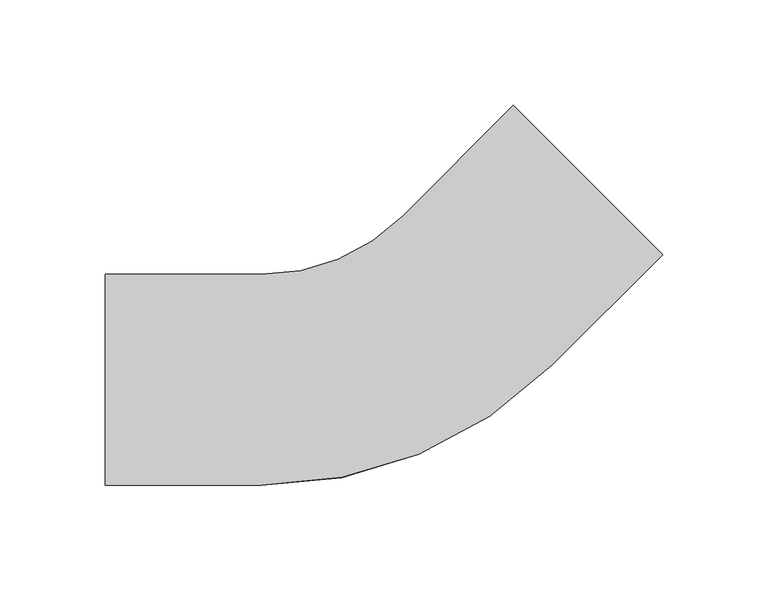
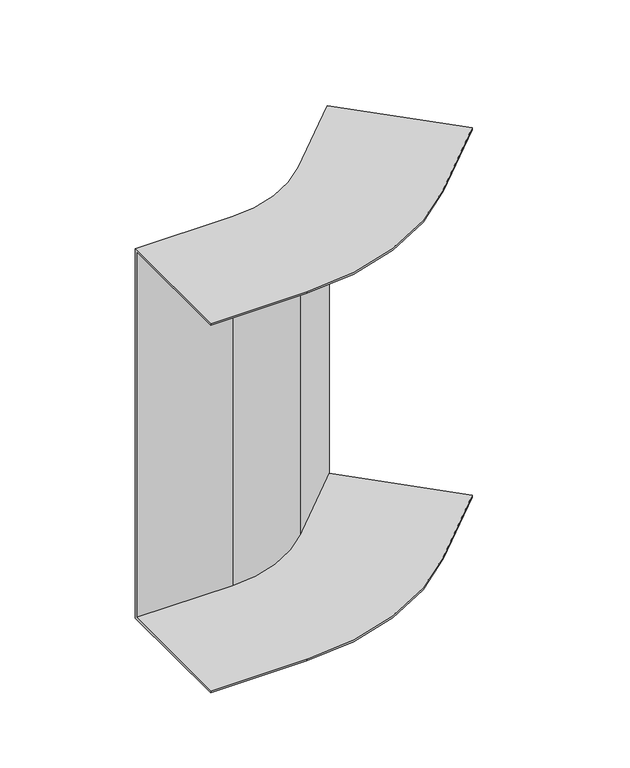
"""IFC4 building model written with IfcOpenShell, lengths in millimetres: cable carrier fitting geometry, BAKS_KK_Vertical bend INTERNAL_LU : LUMNP_H100."""

from ifc_helpers import new_model, si_unit, frame, origin, place, context, project, spatial, polyline, circle_curve, source, transform, mapped, element, save
from ifc_brep_helpers import plane_surface, cylinder_surface, revolved_surface, advanced_brep


def cable_carrier_fitting_ffd069c1(model_context):
    return source(origin(), model_context, "Body", "AdvancedBrep", [
        advanced_brep(
        [(-134.0609665, -50.0, 150.0), (-134.0609665, 50.0, 150.0), (-134.0609665, 50.0, -150.0), (-134.0609665, -50.0, -150.0), (-134.0609665, -50.0, -148.5), (-134.0609665, 48.5, -148.5), (-134.0609665, 48.5, 148.5), (-134.0609665, -50.0, 148.5), (130.1507576, 59.4400795, 150.0), (130.1507576, 59.4400795, 148.5), (60.5007396, 129.0900974, 148.5), (60.5007396, 129.0900974, -148.5), (130.1507576, 59.4400795, -148.5), (130.1507576, 59.4400795, -150.0), (59.4400795, 130.1507576, -150.0), (59.4400795, 130.1507576, 150.0), (-60.0609665, -50.0, 150.0), (77.8248558, 7.1141777, 150.0), (7.1141777, 77.8248558, 150.0), (-60.0609665, 50.0, 150.0), (-60.0609665, 50.0, -150.0), (7.1141777, 77.8248558, -150.0), (77.8248558, 7.1141777, -150.0), (-60.0609665, -50.0, -150.0), (-60.0609665, -50.0, -148.5), (77.8248558, 7.1141777, -148.5), (8.1748378, 76.7641956, -148.5), (-60.0609665, 48.5, -148.5), (-60.0609665, 48.5, 148.5), (8.1748378, 76.7641956, 148.5), (77.8248558, 7.1141777, 148.5), (-60.0609665, -50.0, 148.5)],
        [
            (0, 1),
            (1, 2),
            (2, 3),
            (3, 4),
            (4, 5),
            (5, 6),
            (6, 7),
            (7, 0),
            (8, 9),
            (9, 10),
            (10, 11),
            (11, 12),
            (12, 13),
            (13, 14),
            (14, 15),
            (15, 8),
            (0, 16),
            (16, 17, circle_curve(frame((-60.0609665, 145.0, 150.0), z_axis=(0.0, 0.0, 1.0), x_axis=(0.0, -1.0, 0.0)), 195.0)),
            (17, 8),
            (15, 18),
            (18, 19, circle_curve(frame((-60.0609665, 145.0, 150.0), z_axis=(0.0, 0.0, -1.0), x_axis=(0.0, -1.0, 0.0)), 95.0)),
            (19, 1),
            (19, 20),
            (20, 2),
            (20, 21, circle_curve(frame((-60.0609665, 145.0, -150.0), z_axis=(0.0, 0.0, 1.0), x_axis=(0.0, -1.0, 0.0)), 95.0)),
            (21, 14),
            (13, 22),
            (22, 23, circle_curve(frame((-60.0609665, 145.0, -150.0), z_axis=(0.0, 0.0, -1.0), x_axis=(0.0, -1.0, 0.0)), 195.0)),
            (23, 3),
            (23, 24),
            (24, 4),
            (24, 25, circle_curve(frame((-60.0609665, 145.0, -148.5), z_axis=(0.0, 0.0, 1.0), x_axis=(0.0, -1.0, 0.0)), 195.0)),
            (25, 12),
            (11, 26),
            (26, 27, circle_curve(frame((-60.0609665, 145.0, -148.5), z_axis=(0.0, 0.0, -1.0), x_axis=(0.0, -1.0, 0.0)), 96.5)),
            (27, 5),
            (27, 28),
            (28, 6),
            (28, 29, circle_curve(frame((-60.0609665, 145.0, 148.5), z_axis=(0.0, 0.0, 1.0), x_axis=(0.0, -1.0, 0.0)), 96.5)),
            (29, 10),
            (9, 30),
            (30, 31, circle_curve(frame((-60.0609665, 145.0, 148.5), z_axis=(0.0, 0.0, -1.0), x_axis=(0.0, -1.0, 0.0)), 195.0)),
            (31, 7),
            (31, 16),
            (18, 21),
            (22, 25),
            (26, 29),
            (30, 17),
        ],
        [
            plane_surface(frame((-134.0609665, 0.0, 0.0), z_axis=(-1.0, 0.0, 0.0), x_axis=(0.0, 0.0, 1.0))),
            plane_surface(frame((94.7954185, 94.7954185, 0.0), z_axis=(0.7071067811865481, 0.7071067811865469, 0.0), x_axis=(0.0, 0.0, 1.0))),
            plane_surface(frame((-134.0609665, -50.0, 150.0), z_axis=(0.0, 0.0, 1.0), x_axis=(1.0, 0.0, 0.0))),
            plane_surface(frame((-134.0609665, 50.0, 150.0), z_axis=(0.0, 1.0, 0.0), x_axis=(1.0, 0.0, 0.0))),
            plane_surface(frame((-134.0609665, 50.0, -150.0), z_axis=(0.0, 0.0, -1.0), x_axis=(1.0, 0.0, 0.0))),
            plane_surface(frame((-134.0609665, -50.0, -150.0), z_axis=(0.0, -1.0, 0.0), x_axis=(1.0, 0.0, 0.0))),
            plane_surface(frame((-134.0609665, -50.0, -148.5), z_axis=(0.0, 0.0, 1.0), x_axis=(1.0, 0.0, 0.0))),
            plane_surface(frame((-134.0609665, 48.5, -148.5), z_axis=(0.0, -1.0, 0.0), x_axis=(1.0, 0.0, 0.0))),
            plane_surface(frame((-134.0609665, 48.5, 148.5), z_axis=(0.0, 0.0, -1.0), x_axis=(1.0, 0.0, 0.0))),
            plane_surface(frame((-134.0609665, -50.0, 148.5), z_axis=(0.0, -1.0, 0.0), x_axis=(1.0, 0.0, 0.0))),
            revolved_surface(polyline([(-60.0609665, 50.0, 150.0), (-60.0609665, 50.0, -150.0)]), (-60.0609665, 145.0, 0.0), (0.0, 0.0, 1.0)),
            cylinder_surface(frame((-60.0609665, 145.0, 0.0), z_axis=(0.0, 0.0, 1.0), x_axis=(0.0, -1.0, 0.0)), 195.0),
            cylinder_surface(frame((-60.0609665, 145.0, 0.0), z_axis=(0.0, 0.0, 1.0), x_axis=(0.0, -1.0, 0.0)), 96.5),
            plane_surface(frame((7.1141777, 77.8248558, 150.0), z_axis=(-0.7071067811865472, 0.7071067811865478, 0.0), x_axis=(0.7071067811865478, 0.7071067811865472, 0.0))),
            plane_surface(frame((77.8248558, 7.1141777, -150.0), z_axis=(0.7071067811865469, -0.7071067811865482, 0.0), x_axis=(0.7071067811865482, 0.7071067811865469, 0.0))),
            plane_surface(frame((8.1748378, 76.7641956, -148.5), z_axis=(0.7071067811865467, -0.7071067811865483, 0.0), x_axis=(0.7071067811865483, 0.7071067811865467, 0.0))),
            plane_surface(frame((77.8248558, 7.1141777, 148.5), z_axis=(0.7071067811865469, -0.7071067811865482, 0.0), x_axis=(0.7071067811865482, 0.7071067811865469, 0.0))),
        ],
        [
            (0, [[1, 2, 3, 4, 5, 6, 7, 8]]),
            (1, [[9, 10, 11, 12, 13, 14, 15, 16]]),
            (2, [[-1, 17, 18, 19, -16, 20, 21, 22]]),
            (3, [[-2, -22, 23, 24]]),
            (4, [[-3, -24, 25, 26, -14, 27, 28, 29]]),
            (5, [[-4, -29, 30, 31]]),
            (6, [[-5, -31, 32, 33, -12, 34, 35, 36]]),
            (7, [[-6, -36, 37, 38]]),
            (8, [[-7, -38, 39, 40, -10, 41, 42, 43]]),
            (9, [[-8, -43, 44, -17]]),
            (10, [[-25, -23, -21, 45]]),
            (11, [[-32, -30, -28, 46]]),
            (12, [[-39, -37, -35, 47]]),
            (11, [[-18, -44, -42, 48]]),
            (13, [[-45, -20, -15, -26]]),
            (14, [[-46, -27, -13, -33]]),
            (15, [[-47, -34, -11, -40]]),
            (16, [[-48, -41, -9, -19]]),
        ],
    ),
    ])


if __name__ == "__main__":
    model = new_model("IFC4")
    model_context = context("Model", 3, world=origin())
    ifc_project = project(units=[si_unit("LENGTHUNIT", "METRE", prefix="MILLI")], contexts=[model_context])
    site = spatial("IfcSite", under=ifc_project)
    building = spatial("IfcBuilding", under=site)
    placement = place(None, origin())
    cable_carrier_fitting_shape = cable_carrier_fitting_ffd069c1(model_context)
    element("IfcCableCarrierFitting", 1, ObjectType="BAKS_KK_Vertical bend INTERNAL_LU : LUMNP_H100", at=placement, inside=building, context=model_context, shape_type="MappedRepresentation", body=[
        mapped(cable_carrier_fitting_shape, transform((0.0, 0.0, 0.0), x_axis=(1.0, 0.0, 0.0), y_axis=(0.0, 1.0, 0.0), z_axis=(0.0, 0.0, 1.0))),
    ])
    save(model, "model.ifc")
